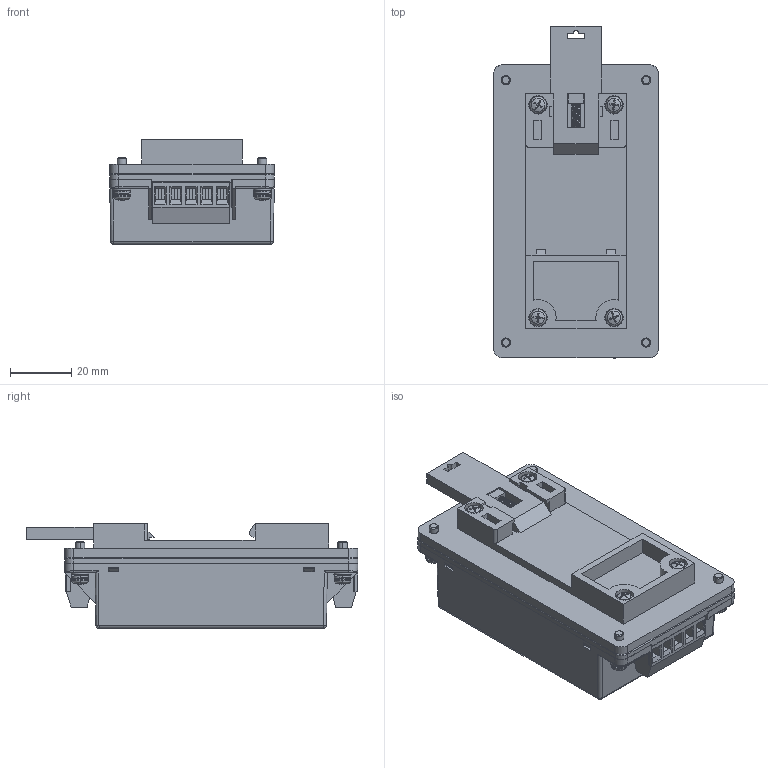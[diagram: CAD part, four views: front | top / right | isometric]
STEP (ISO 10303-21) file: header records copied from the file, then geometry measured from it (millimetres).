
FILE_DESCRIPTION (( 'STEP AP214' ), '1' );
FILE_NAME ('DTE20-D.STEP', '2017-01-10T15:26:28', ( '' ), ( '' ), 'SwSTEP 2.0', 'SolidWorks 2016', '' );
FILE_SCHEMA (( 'AUTOMOTIVE_DESIGN' ));
Length unit declared in the file: inch
Products named in the file (19): DIN_1; DTE20 CASE; DTE20 CASE_2; DTE20 BASE; Connect(5PIN); Connect(3PIN); DTE20-D; M3-12mm; DIN rail_HS; M3-8mm; SPRING WASHER; FLAT WASHER; 15W-HS; DIN rail; DIN_3; DIN_2
Assembly tree (26 placements, depth 4):
  DTE20-D
    Connect(3PIN)
    Connect(5PIN)
    DTE20 BASE
    DTE20 CASE
      DTE20 CASE_2
      DTE20 CASE
    DIN rail_HS
      DIN rail
        DIN_1
        DIN_2
        DIN_3
      15W-HS
      M3-8mm  x4
        FLAT WASHER
        SPRING WASHER
        M3-8mm
    M3-12mm  x4
      M3-12mm
      FLAT WASHER
      SPRING WASHER
Bounding box: 54 x 108.76 x 34.3 mm (x, y, z)
Volume: 105108.7 mm3; surface area: 57385.3 mm2
Topology: 33 solids, 33 shells, 1312 faces, 3377 edges, 2191 vertices
Faces by surface type: plane 670, cylinder 339, bspline 161, cone 142
Entity records: 46203 total; most frequent: CARTESIAN_POINT 10162, ORIENTED_EDGE 4874, DIRECTION 4593, EDGE_CURVE 2437, LINE 1697, VECTOR 1697, VERTEX_POINT 1603, AXIS2_PLACEMENT_3D 1448
